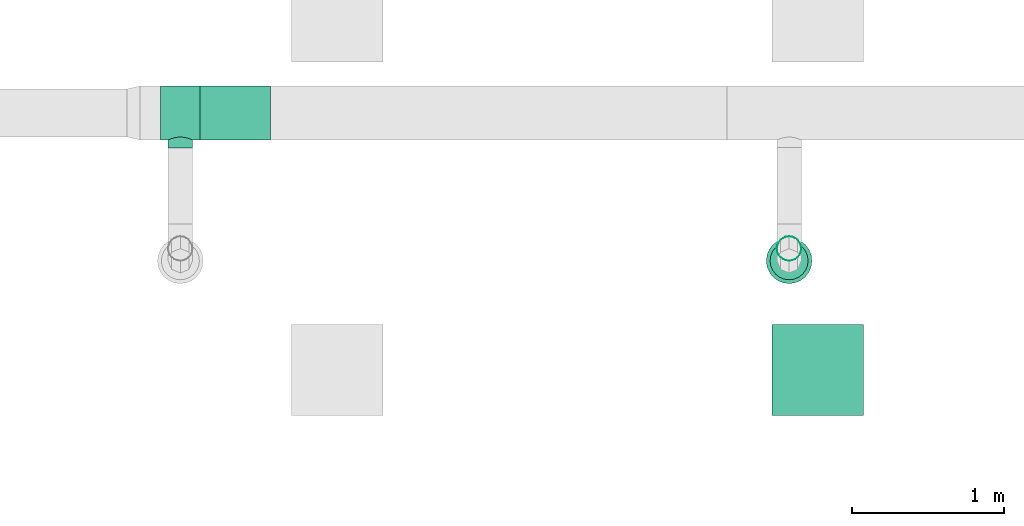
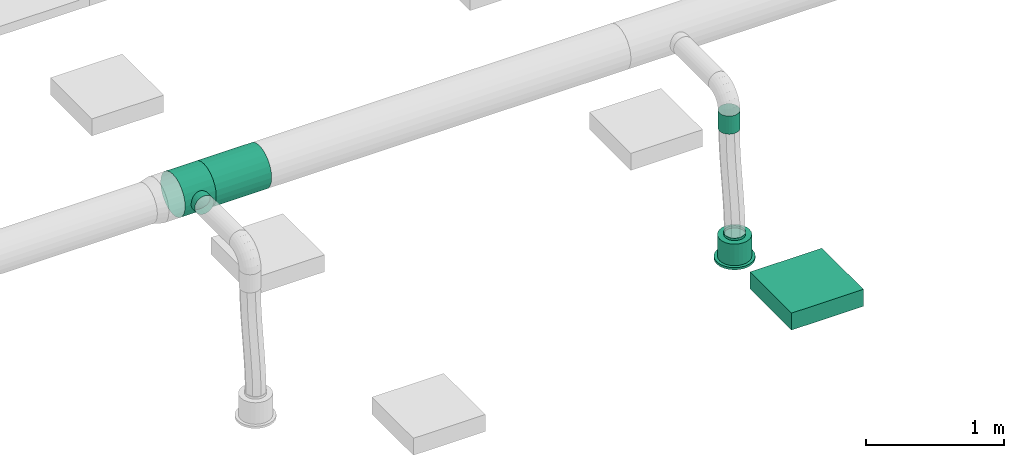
# One storey, part 26 of 374: 2 flow segments, 1 distribution element, 1 flow fitting, 1 flow terminal.
"""IFC2X3 building model written with IfcOpenShell, lengths in metres."""

from ifc_helpers import new_model, si_unit, direction, frame, frame_2d, origin, place, context, subcontext, project, spatial, rectangle, extrude, open_shell, surface_model, source, transform, mapped, element, save


model = new_model("IFC2X3")

# Units and contexts
model_context = context("Model", 3, precision=1e-05, world=origin(), true_north=direction((-0.4480736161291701, 0.8939966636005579)))
body_context = subcontext(model_context, "Body", "Model", "MODEL_VIEW")
ifc_project = project(units=[si_unit("LENGTHUNIT", "METRE"), si_unit("AREAUNIT", "SQUARE_METRE"), si_unit("VOLUMEUNIT", "CUBIC_METRE"), si_unit("PLANEANGLEUNIT", "RADIAN"), si_unit("THERMODYNAMICTEMPERATUREUNIT", "KELVIN"), si_unit("MASSUNIT", "GRAM", prefix="KILO"), si_unit("TIMEUNIT", "SECOND")], contexts=[model_context])

# Site, building, storey
site_placement = place(None, origin())
site = spatial("IfcSite", under=ifc_project, at=site_placement, Name="Site 1", CompositionType="ELEMENT")
building_placement = place(site_placement, origin())
building = spatial("IfcBuilding", under=site, at=building_placement, Name="Undefined", CompositionType="ELEMENT")
storey_placement = place(building_placement, origin())
storey = spatial("IfcBuildingStorey", under=building, at=storey_placement, Name="Rez de chauss\x8ee", CompositionType="ELEMENT", Elevation=0.0)

# Flow terminal
shared_shape_1 = source(origin(), body_context, "Body", "SurfaceModel", [
    surface_model("IfcFaceBasedSurfaceModel", [(0.0, 0.0, 0.0), (0.03915785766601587, 0.0, 0.0), (0.03915785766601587, 0.020000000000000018, 0.0), (3.552713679e-15, 0.020000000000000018, 0.0), (0.07698144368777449, 0.0, -0.010134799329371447), (0.07698144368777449, 0.020000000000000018, -0.010134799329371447), (0.11089314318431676, 0.0, -0.02971372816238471), (0.11089314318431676, 0.020000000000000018, -0.02971372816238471), (0.13858192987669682, 0.0, -0.05740251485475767), (0.13858192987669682, 0.020000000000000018, -0.05740251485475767), (0.15816085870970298, 0.0, -0.09131421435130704), (0.15816085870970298, 0.020000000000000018, -0.09131421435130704), (0.16829565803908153, 0.0, -0.12913780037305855), (0.16829565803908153, 0.020000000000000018, -0.12913780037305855), (0.16829565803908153, 0.0, -0.16829565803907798), (0.16829565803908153, 0.020000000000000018, -0.16829565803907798), (0.15816085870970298, 0.0, -0.20611924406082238), (0.15816085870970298, 0.020000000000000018, -0.20611924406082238), (0.13858192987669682, 0.0, -0.24003094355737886), (0.13858192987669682, 0.020000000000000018, -0.24003094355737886), (0.11089314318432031, 0.0, -0.2677197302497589), (0.11089314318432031, 0.020000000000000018, -0.2677197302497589), (0.07698144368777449, 0.0, -0.2872986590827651), (0.07698144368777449, 0.020000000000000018, -0.2872986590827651), (0.039157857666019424, 0.0, -0.29743345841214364), (0.039157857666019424, 0.020000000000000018, -0.29743345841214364), (3.552713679e-15, 0.0, -0.29743345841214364), (3.552713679e-15, 0.020000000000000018, -0.29743345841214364), (-0.03782358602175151, 0.0, -0.2872986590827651), (-0.03782358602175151, 0.020000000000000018, -0.2872986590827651), (-0.07173528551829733, 0.0, -0.2677197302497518), (-0.07173528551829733, 0.020000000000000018, -0.2677197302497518), (-0.0994240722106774, 0.0, -0.24003094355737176), (-0.0994240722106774, 0.020000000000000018, -0.24003094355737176), (-0.11900300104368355, 0.0, -0.2061192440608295), (-0.11900300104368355, 0.020000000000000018, -0.2061192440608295), (-0.1291378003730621, 0.0, -0.16829565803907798), (-0.1291378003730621, 0.020000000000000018, -0.16829565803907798), (-0.1291378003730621, 0.0, -0.12913780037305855), (-0.1291378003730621, 0.020000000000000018, -0.12913780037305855), (-0.11900300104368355, 0.0, -0.09131421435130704), (-0.11900300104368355, 0.020000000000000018, -0.09131421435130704), (-0.0994240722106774, 0.0, -0.05740251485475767), (-0.0994240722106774, 0.020000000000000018, -0.05740251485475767), (-0.07173528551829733, 0.0, -0.029713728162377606), (-0.07173528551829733, 0.020000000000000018, -0.029713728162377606), (-0.03782358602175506, 0.0, -0.010134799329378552), (-0.03782358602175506, 0.020000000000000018, -0.010134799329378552), (0.019578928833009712, 0.0, -0.14871672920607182), (0.019578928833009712, 0.020000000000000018, -0.14871672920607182), (0.003263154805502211, 0.020000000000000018, -0.02478612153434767), (0.035894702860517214, 0.020000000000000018, -0.02478612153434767), (0.035894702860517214, 0.20999999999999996, -0.02478612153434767), (0.003263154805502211, 0.20999999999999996, -0.02478612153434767), (0.06741435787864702, 0.020000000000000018, -0.033231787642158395), (0.06741435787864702, 0.20999999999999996, -0.033231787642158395), (0.0956741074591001, 0.020000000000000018, -0.04954756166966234), (0.0956741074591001, 0.20999999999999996, -0.04954756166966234), (0.11874809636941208, 0.020000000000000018, -0.07262155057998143), (0.11874809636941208, 0.20999999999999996, -0.07262155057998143), (0.13506387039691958, 0.020000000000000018, -0.10088130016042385), (0.13506387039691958, 0.20999999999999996, -0.10088130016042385), (0.1435095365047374, 0.020000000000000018, -0.13240095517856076), (0.1435095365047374, 0.20999999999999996, -0.13240095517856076), (0.1435095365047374, 0.020000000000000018, -0.16503250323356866), (0.1435095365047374, 0.20999999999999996, -0.16503250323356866), (0.13506387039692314, 0.020000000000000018, -0.19655215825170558), (0.13506387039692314, 0.20999999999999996, -0.19655215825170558), (0.11874809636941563, 0.020000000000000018, -0.2248119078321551), (0.11874809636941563, 0.20999999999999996, -0.2248119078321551), (0.09567410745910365, 0.020000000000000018, -0.24788589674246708), (0.09567410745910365, 0.20999999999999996, -0.24788589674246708), (0.06741435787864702, 0.020000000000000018, -0.26420167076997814), (0.06741435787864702, 0.20999999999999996, -0.26420167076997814), (0.035894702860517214, 0.020000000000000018, -0.27264733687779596), (0.035894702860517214, 0.20999999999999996, -0.27264733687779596), (0.0032631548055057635, 0.020000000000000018, -0.27264733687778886), (0.0032631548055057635, 0.20999999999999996, -0.27264733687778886), (-0.028256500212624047, 0.020000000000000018, -0.26420167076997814), (-0.028256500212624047, 0.20999999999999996, -0.26420167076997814), (-0.05651624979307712, 0.020000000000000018, -0.2478858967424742), (-0.05651624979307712, 0.20999999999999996, -0.2478858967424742), (-0.07959023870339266, 0.020000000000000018, -0.2248119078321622), (-0.07959023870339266, 0.20999999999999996, -0.2248119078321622), (-0.09590601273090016, 0.020000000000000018, -0.19655215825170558), (-0.09590601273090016, 0.20999999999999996, -0.19655215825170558), (-0.10435167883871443, 0.020000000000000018, -0.16503250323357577), (-0.10435167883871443, 0.20999999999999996, -0.16503250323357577), (-0.10435167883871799, 0.020000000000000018, -0.13240095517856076), (-0.10435167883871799, 0.20999999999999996, -0.13240095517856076), (-0.09590601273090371, 0.020000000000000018, -0.10088130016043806), (-0.09590601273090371, 0.20999999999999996, -0.10088130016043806), (-0.07959023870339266, 0.020000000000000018, -0.07262155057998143), (-0.07959023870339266, 0.20999999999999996, -0.07262155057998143), (-0.056516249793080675, 0.020000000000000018, -0.04954756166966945), (-0.056516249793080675, 0.20999999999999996, -0.04954756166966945), (-0.028256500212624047, 0.020000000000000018, -0.033231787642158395), (-0.028256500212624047, 0.20999999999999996, -0.033231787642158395), (0.019578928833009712, 0.20999999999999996, -0.14871672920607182), (0.009136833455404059, 0.20999999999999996, -0.06940114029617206), (0.030021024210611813, 0.20999999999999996, -0.06940114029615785), (0.030021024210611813, 0.22999999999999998, -0.06940114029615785), (0.009136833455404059, 0.22999999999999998, -0.06940114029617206), (0.05019360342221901, 0.20999999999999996, -0.07480636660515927), (0.05019360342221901, 0.22999999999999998, -0.07480636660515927), (0.06827984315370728, 0.20999999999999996, -0.08524846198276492), (0.06827984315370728, 0.22999999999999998, -0.08524846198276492), (0.0830471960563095, 0.20999999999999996, -0.10001581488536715), (0.0830471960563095, 0.22999999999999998, -0.10001581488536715), (0.0934892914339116, 0.20999999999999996, -0.11810205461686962), (0.0934892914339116, 0.22999999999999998, -0.11810205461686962), (0.09889451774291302, 0.20999999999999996, -0.13827463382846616), (0.09889451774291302, 0.22999999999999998, -0.13827463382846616), (0.09889451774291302, 0.20999999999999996, -0.15915882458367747), (0.09889451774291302, 0.22999999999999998, -0.15915882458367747), (0.09348929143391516, 0.20999999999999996, -0.179331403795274), (0.09348929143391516, 0.22999999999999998, -0.179331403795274), (0.0830471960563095, 0.20999999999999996, -0.19741764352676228), (0.0830471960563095, 0.22999999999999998, -0.19741764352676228), (0.06827984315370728, 0.20999999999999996, -0.2121849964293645), (0.06827984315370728, 0.22999999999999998, -0.2121849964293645), (0.05019360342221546, 0.20999999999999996, -0.22262709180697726), (0.05019360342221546, 0.22999999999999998, -0.22262709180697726), (0.030021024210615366, 0.20999999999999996, -0.22803231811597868), (0.030021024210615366, 0.22999999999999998, -0.22803231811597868), (0.009136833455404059, 0.20999999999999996, -0.22803231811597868), (0.009136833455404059, 0.22999999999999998, -0.22803231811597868), (-0.011035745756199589, 0.20999999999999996, -0.22262709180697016), (-0.011035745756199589, 0.22999999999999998, -0.22262709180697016), (-0.0291219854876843, 0.20999999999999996, -0.2121849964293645), (-0.0291219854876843, 0.22999999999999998, -0.2121849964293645), (-0.043889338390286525, 0.20999999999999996, -0.19741764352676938), (-0.043889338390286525, 0.22999999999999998, -0.19741764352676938), (-0.05433143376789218, 0.20999999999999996, -0.17933140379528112), (-0.05433143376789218, 0.22999999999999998, -0.17933140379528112), (-0.05973666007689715, 0.20999999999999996, -0.15915882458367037), (-0.05973666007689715, 0.22999999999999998, -0.15915882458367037), (-0.0597366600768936, 0.20999999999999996, -0.13827463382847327), (-0.0597366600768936, 0.22999999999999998, -0.13827463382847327), (-0.05433143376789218, 0.20999999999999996, -0.11810205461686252), (-0.05433143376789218, 0.22999999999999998, -0.11810205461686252), (-0.043889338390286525, 0.20999999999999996, -0.10001581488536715), (-0.043889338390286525, 0.22999999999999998, -0.10001581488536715), (-0.02912198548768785, 0.20999999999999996, -0.08524846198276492), (-0.02912198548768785, 0.22999999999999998, -0.08524846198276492), (-0.011035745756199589, 0.20999999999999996, -0.07480636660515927), (-0.011035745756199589, 0.22999999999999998, -0.07480636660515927)], [open_shell([[[0, 1, 2, 3]], [[1, 4, 5, 2]], [[4, 6, 7, 5]], [[6, 8, 9, 7]], [[8, 10, 11, 9]], [[10, 12, 13, 11]], [[12, 14, 15, 13]], [[14, 16, 17, 15]], [[16, 18, 19, 17]], [[18, 20, 21, 19]], [[20, 22, 23, 21]], [[22, 24, 25, 23]], [[24, 26, 27, 25]], [[26, 28, 29, 27]], [[28, 30, 31, 29]], [[30, 32, 33, 31]], [[32, 34, 35, 33]], [[34, 36, 37, 35]], [[36, 38, 39, 37]], [[38, 40, 41, 39]], [[40, 42, 43, 41]], [[42, 44, 45, 43]], [[44, 46, 47, 45]], [[46, 0, 3, 47]], [[48, 1, 0]], [[48, 4, 1]], [[48, 6, 4]], [[48, 8, 6]], [[48, 10, 8]], [[48, 12, 10]], [[48, 14, 12]], [[48, 16, 14]], [[48, 18, 16]], [[48, 20, 18]], [[48, 22, 20]], [[48, 24, 22]], [[48, 26, 24]], [[48, 28, 26]], [[48, 30, 28]], [[48, 32, 30]], [[48, 34, 32]], [[48, 36, 34]], [[48, 38, 36]], [[48, 40, 38]], [[48, 42, 40]], [[48, 44, 42]], [[48, 46, 44]], [[48, 0, 46]], [[49, 47, 3]], [[49, 45, 47]], [[49, 43, 45]], [[49, 41, 43]], [[49, 39, 41]], [[49, 37, 39]], [[49, 35, 37]], [[49, 33, 35]], [[49, 31, 33]], [[49, 29, 31]], [[49, 27, 29]], [[49, 25, 27]], [[49, 23, 25]], [[49, 21, 23]], [[49, 19, 21]], [[49, 17, 19]], [[49, 15, 17]], [[49, 13, 15]], [[49, 11, 13]], [[49, 9, 11]], [[49, 7, 9]], [[49, 5, 7]], [[49, 2, 5]], [[49, 3, 2]], [[50, 51, 52, 53]], [[51, 54, 55, 52]], [[54, 56, 57, 55]], [[56, 58, 59, 57]], [[58, 60, 61, 59]], [[60, 62, 63, 61]], [[62, 64, 65, 63]], [[64, 66, 67, 65]], [[66, 68, 69, 67]], [[68, 70, 71, 69]], [[70, 72, 73, 71]], [[72, 74, 75, 73]], [[74, 76, 77, 75]], [[76, 78, 79, 77]], [[78, 80, 81, 79]], [[80, 82, 83, 81]], [[82, 84, 85, 83]], [[84, 86, 87, 85]], [[86, 88, 89, 87]], [[88, 90, 91, 89]], [[90, 92, 93, 91]], [[92, 94, 95, 93]], [[94, 96, 97, 95]], [[96, 50, 53, 97]], [[49, 51, 50]], [[49, 54, 51]], [[49, 56, 54]], [[49, 58, 56]], [[49, 60, 58]], [[49, 62, 60]], [[49, 64, 62]], [[49, 66, 64]], [[49, 68, 66]], [[49, 70, 68]], [[49, 72, 70]], [[49, 74, 72]], [[49, 76, 74]], [[49, 78, 76]], [[49, 80, 78]], [[49, 82, 80]], [[49, 84, 82]], [[49, 86, 84]], [[49, 88, 86]], [[49, 90, 88]], [[49, 92, 90]], [[49, 94, 92]], [[49, 96, 94]], [[49, 50, 96]], [[98, 97, 53]], [[98, 95, 97]], [[98, 93, 95]], [[98, 91, 93]], [[98, 89, 91]], [[98, 87, 89]], [[98, 85, 87]], [[98, 83, 85]], [[98, 81, 83]], [[98, 79, 81]], [[98, 77, 79]], [[98, 75, 77]], [[98, 73, 75]], [[98, 71, 73]], [[98, 69, 71]], [[98, 67, 69]], [[98, 65, 67]], [[98, 63, 65]], [[98, 61, 63]], [[98, 59, 61]], [[98, 57, 59]], [[98, 55, 57]], [[98, 52, 55]], [[98, 53, 52]], [[99, 100, 101, 102]], [[100, 103, 104, 101]], [[103, 105, 106, 104]], [[105, 107, 108, 106]], [[107, 109, 110, 108]], [[109, 111, 112, 110]], [[111, 113, 114, 112]], [[113, 115, 116, 114]], [[115, 117, 118, 116]], [[117, 119, 120, 118]], [[119, 121, 122, 120]], [[121, 123, 124, 122]], [[123, 125, 126, 124]], [[125, 127, 128, 126]], [[127, 129, 130, 128]], [[129, 131, 132, 130]], [[131, 133, 134, 132]], [[133, 135, 136, 134]], [[135, 137, 138, 136]], [[137, 139, 140, 138]], [[139, 141, 142, 140]], [[141, 143, 144, 142]], [[143, 145, 146, 144]], [[145, 99, 102, 146]]])]),
])
flow_terminal_placement = place(storey_placement, origin())
element("IfcFlowTerminal", 1, at=flow_terminal_placement, inside=storey, Name="Air diffuseur - bouche", ObjectType="Air diffuseur - bouche", context=body_context, shape_type="MappedRepresentation", body=[
    mapped(shared_shape_1, transform((26.290000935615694, 2.0299997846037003, 2.38), x_axis=(-0.9914448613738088, -0.13052619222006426, 0.0), y_axis=(0.0, 0.0, 1.0), z_axis=(-0.13052619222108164, 0.9914448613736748, 0.0))),
])

# Flow segment
shared_shape_2 = source(origin(), body_context, "Body", "SurfaceModel", [
    surface_model("IfcFaceBasedSurfaceModel", [(0.0, 0.046336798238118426, 0.0), (0.0, 0.0, 0.0), (0.46300008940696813, 4.4408921e-16, -4.4408921e-16), (0.46300008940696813, 0.04633679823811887, 0.0), (0.0, -0.044757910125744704, -0.0119928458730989), (0.46300008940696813, -0.04475791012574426, -0.0119928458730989), (0.0, -0.08488675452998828, -0.035161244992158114), (0.46300008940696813, -0.08488675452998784, -0.03516124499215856), (0.0, -0.11765181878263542, -0.06792630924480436), (0.46300008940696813, -0.11765181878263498, -0.06792630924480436), (0.0, -0.1408202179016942, -0.10805515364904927), (0.46300008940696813, -0.14082021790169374, -0.10805515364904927), (0.0, -0.15281306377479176, -0.15281306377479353), (0.46300008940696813, -0.1528130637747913, -0.15281306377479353), (0.0, -0.1528130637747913, -0.19914986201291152), (0.46300008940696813, -0.15281306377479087, -0.19914986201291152), (0.0, -0.14082021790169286, -0.24390777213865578), (0.46300008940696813, -0.14082021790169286, -0.24390777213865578), (0.0, -0.11765181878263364, -0.2840366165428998), (0.46300008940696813, -0.1176518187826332, -0.28403661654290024), (0.0, -0.0848867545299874, -0.31680168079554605), (0.46300008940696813, -0.08488675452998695, -0.31680168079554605), (0.0, -0.044757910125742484, -0.3399700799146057), (0.46300008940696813, -0.04475791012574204, -0.3399700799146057), (0.0, 1.776356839e-15, -0.35196292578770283), (0.46300008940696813, 2.220446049e-15, -0.35196292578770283), (0.0, 0.0463367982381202, -0.3519629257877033), (0.46300008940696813, 0.04633679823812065, -0.3519629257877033), (0.0, 0.09109470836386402, -0.3399700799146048), (0.46300008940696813, 0.09109470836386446, -0.3399700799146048), (0.0, 0.13122355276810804, -0.31680168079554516), (0.46300008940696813, 0.1312235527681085, -0.31680168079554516), (0.0, 0.16398861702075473, -0.2840366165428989), (0.46300008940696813, 0.16398861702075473, -0.2840366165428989), (0.0, 0.18715701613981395, -0.243907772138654), (0.46300008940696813, 0.18715701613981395, -0.243907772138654), (0.0, 0.19914986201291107, -0.19914986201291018), (0.46300008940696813, 0.19914986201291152, -0.19914986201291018), (0.0, 0.19914986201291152, -0.15281306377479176), (0.46300008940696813, 0.19914986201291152, -0.1528130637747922), (0.0, 0.18715701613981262, -0.1080551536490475), (0.46300008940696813, 0.18715701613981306, -0.1080551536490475), (0.0, 0.1639886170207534, -0.06792630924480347), (0.46300008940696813, 0.16398861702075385, -0.06792630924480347), (0.0, 0.1312235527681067, -0.03516124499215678), (0.46300008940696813, 0.13122355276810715, -0.03516124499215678), (0.0, 0.09109470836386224, -0.011992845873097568), (0.46300008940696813, 0.09109470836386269, -0.011992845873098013)], [open_shell([[[0, 1, 2, 3]], [[1, 4, 5, 2]], [[4, 6, 7, 5]], [[6, 8, 9, 7]], [[8, 10, 11, 9]], [[10, 12, 13, 11]], [[12, 14, 15, 13]], [[14, 16, 17, 15]], [[16, 18, 19, 17]], [[18, 20, 21, 19]], [[20, 22, 23, 21]], [[22, 24, 25, 23]], [[24, 26, 27, 25]], [[26, 28, 29, 27]], [[28, 30, 31, 29]], [[30, 32, 33, 31]], [[32, 34, 35, 33]], [[34, 36, 37, 35]], [[36, 38, 39, 37]], [[38, 40, 41, 39]], [[40, 42, 43, 41]], [[42, 44, 45, 43]], [[44, 46, 47, 45]], [[46, 0, 3, 47]]])]),
])
flow_segment_1_placement = place(storey_placement, origin())
element("IfcFlowSegment", 2, at=flow_segment_1_placement, inside=storey, Name="Tube", ObjectType="Tube", context=body_context, shape_type="MappedRepresentation", body=[
    mapped(shared_shape_2, transform((22.88300102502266, 2.897238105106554, 3.9714518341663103), x_axis=(-1.0, 0.0, 0.0), y_axis=(7.266545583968e-12, -0.9914448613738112, 0.13052619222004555), z_axis=(0.0, 0.13052619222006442, 0.9914448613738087))),
])

# Flow fitting
shared_shape_3 = source(origin(), body_context, "Body", "SurfaceModel", [
    surface_model("IfcFaceBasedSurfaceModel", [(0.0, 0.046336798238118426, 0.0), (0.0, 0.0, 0.0), (0.2599999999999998, -7.105427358e-15, 0.0), (0.259999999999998, 0.04633679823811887, 0.0), (0.0, -0.044757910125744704, -0.0119928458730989), (0.259999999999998, -0.04475791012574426, -0.0119928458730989), (0.0, -0.08488675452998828, -0.035161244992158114), (0.259999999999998, -0.08488675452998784, -0.03516124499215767), (0.0, -0.11765181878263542, -0.06792630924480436), (0.259999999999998, -0.11765181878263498, -0.06792630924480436), (0.0, -0.1408202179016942, -0.10805515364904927), (0.259999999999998, -0.14082021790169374, -0.10805515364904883), (0.0, -0.15281306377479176, -0.15281306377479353), (0.259999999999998, -0.1528130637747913, -0.15281306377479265), (0.0, -0.1528130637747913, -0.19914986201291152), (0.259999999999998, -0.15281306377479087, -0.19914986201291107), (0.0, -0.14082021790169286, -0.24390777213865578), (0.259999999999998, -0.14082021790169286, -0.24390777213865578), (0.0, -0.11765181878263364, -0.2840366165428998), (0.259999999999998, -0.1176518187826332, -0.28403661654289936), (0.0, -0.0848867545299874, -0.31680168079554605), (0.259999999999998, -0.08488675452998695, -0.31680168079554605), (0.0, -0.044757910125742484, -0.3399700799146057), (0.259999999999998, -0.04475791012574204, -0.33997007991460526), (0.0, 1.776356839e-15, -0.35196292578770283), (0.259999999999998, 2.220446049e-15, -0.35196292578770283), (0.0, 0.0463367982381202, -0.3519629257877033), (0.259999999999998, 0.04633679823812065, -0.35196292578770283), (0.0, 0.09109470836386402, -0.3399700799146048), (0.259999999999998, 0.09109470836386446, -0.3399700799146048), (0.0, 0.13122355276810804, -0.31680168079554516), (0.259999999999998, 0.1312235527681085, -0.3168016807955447), (0.0, 0.16398861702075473, -0.2840366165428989), (0.259999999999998, 0.16398861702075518, -0.2840366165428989), (0.0, 0.18715701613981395, -0.243907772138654), (0.259999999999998, 0.18715701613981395, -0.24390777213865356), (0.0, 0.19914986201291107, -0.19914986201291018), (0.259999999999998, 0.19914986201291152, -0.1991498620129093), (0.0, 0.19914986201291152, -0.15281306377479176), (0.259999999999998, 0.19914986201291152, -0.1528130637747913), (0.0, 0.18715701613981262, -0.1080551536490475), (0.259999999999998, 0.18715701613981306, -0.1080551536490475), (0.0, 0.1639886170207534, -0.06792630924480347), (0.259999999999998, 0.16398861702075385, -0.06792630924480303), (0.0, 0.1312235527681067, -0.03516124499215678), (0.259999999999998, 0.13122355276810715, -0.03516124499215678), (0.0, 0.09109470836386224, -0.011992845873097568), (0.259999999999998, 0.09109470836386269, -0.011992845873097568), (0.21000000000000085, 0.19914986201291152, -0.1991498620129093), (0.2072740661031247, 0.1952458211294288, -0.2195200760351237), (0.2072740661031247, 0.2484981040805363, -0.2265308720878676), (0.21000000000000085, 0.251200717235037, -0.2060024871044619), (0.19928203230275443, 0.18940211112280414, -0.23821170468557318), (0.19928203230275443, 0.24597966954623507, -0.24566028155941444), (0.18656854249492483, 0.18258998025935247, -0.25402638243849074), (0.18656854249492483, 0.24381704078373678, -0.2620870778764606), (0.1699999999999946, 0.17614766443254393, -0.2660014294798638), (0.1699999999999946, 0.242157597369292, -0.27469180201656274), (0.15070552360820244, 0.17151167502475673, -0.2734520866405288), (0.15070552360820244, 0.24111442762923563, -0.28261546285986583), (0.12999999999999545, 0.16982026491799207, -0.27597886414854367), (0.12999999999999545, 0.24075862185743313, -0.285318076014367), (0.10929447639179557, 0.17151167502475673, -0.2734520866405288), (0.10929447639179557, 0.24111442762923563, -0.28261546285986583), (0.0899999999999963, 0.17614766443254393, -0.2660014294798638), (0.0899999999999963, 0.242157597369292, -0.27469180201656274), (0.07343145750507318, 0.18258998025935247, -0.25402638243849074), (0.07343145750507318, 0.24381704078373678, -0.2620870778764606), (0.06071796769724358, 0.18940211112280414, -0.23821170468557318), (0.06071796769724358, 0.24597966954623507, -0.24566028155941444), (0.0527259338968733, 0.1952458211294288, -0.2195200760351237), (0.0527259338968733, 0.2484981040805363, -0.2265308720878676), (0.04999999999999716, 0.19914986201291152, -0.1991498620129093), (0.04999999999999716, 0.251200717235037, -0.2060024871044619), (0.0527259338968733, 0.2006510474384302, -0.1784633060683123), (0.0527259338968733, 0.2539033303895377, -0.1854741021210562), (0.06071796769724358, 0.19984420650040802, -0.15889611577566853), (0.06071796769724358, 0.25642176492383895, -0.1663446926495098), (0.07343145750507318, 0.19735733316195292, -0.14185720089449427), (0.07343145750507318, 0.25858439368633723, -0.1499178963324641), (0.0899999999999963, 0.19423390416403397, -0.12862279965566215), (0.0899999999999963, 0.260243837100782, -0.13731317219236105), (0.10929447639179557, 0.1916842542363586, -0.12022613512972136), (0.10929447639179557, 0.2612870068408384, -0.1293895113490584), (0.12999999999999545, 0.19070445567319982, -0.11734768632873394), (0.12999999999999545, 0.2616428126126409, -0.12668689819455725), (0.15070552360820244, 0.1916842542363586, -0.12022613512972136), (0.15070552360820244, 0.2612870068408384, -0.1293895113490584), (0.1699999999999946, 0.19423390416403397, -0.12862279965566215), (0.1699999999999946, 0.260243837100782, -0.13731317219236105), (0.18656854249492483, 0.19735733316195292, -0.14185720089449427), (0.18656854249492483, 0.25858439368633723, -0.1499178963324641), (0.19928203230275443, 0.19984420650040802, -0.15889611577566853), (0.19928203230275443, 0.25642176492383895, -0.1663446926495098), (0.2072740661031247, 0.2006510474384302, -0.1784633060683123), (0.2072740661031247, 0.2539033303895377, -0.1854741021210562)], [open_shell([[[0, 1, 2, 3]], [[1, 4, 5, 2]], [[4, 6, 7, 5]], [[6, 8, 9, 7]], [[8, 10, 11, 9]], [[10, 12, 13, 11]], [[12, 14, 15, 13]], [[14, 16, 17, 15]], [[16, 18, 19, 17]], [[18, 20, 21, 19]], [[20, 22, 23, 21]], [[22, 24, 25, 23]], [[24, 26, 27, 25]], [[26, 28, 29, 27]], [[28, 30, 31, 29]], [[30, 32, 33, 31]], [[32, 34, 35, 33]], [[34, 36, 37, 35]], [[36, 38, 39, 37]], [[38, 40, 41, 39]], [[40, 42, 43, 41]], [[42, 44, 45, 43]], [[44, 46, 47, 45]], [[46, 0, 3, 47]], [[48, 49, 50, 51]], [[49, 52, 53, 50]], [[52, 54, 55, 53]], [[54, 56, 57, 55]], [[56, 58, 59, 57]], [[58, 60, 61, 59]], [[60, 62, 63, 61]], [[62, 64, 65, 63]], [[64, 66, 67, 65]], [[66, 68, 69, 67]], [[68, 70, 71, 69]], [[70, 72, 73, 71]], [[72, 74, 75, 73]], [[74, 76, 77, 75]], [[76, 78, 79, 77]], [[78, 80, 81, 79]], [[80, 82, 83, 81]], [[82, 84, 85, 83]], [[84, 86, 87, 85]], [[86, 88, 89, 87]], [[88, 90, 91, 89]], [[90, 92, 93, 91]], [[92, 94, 95, 93]], [[94, 48, 51, 95]]])]),
])
flow_fitting_placement = place(storey_placement, origin())
element("IfcFlowFitting", 3, at=flow_fitting_placement, inside=storey, Name="Pièce en té 90°", ObjectType="Pièce en té 90°", context=body_context, shape_type="MappedRepresentation", body=[
    mapped(shared_shape_3, transform((22.160000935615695, 2.897238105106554, 3.6285481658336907), x_axis=(1.0, 0.0, 0.0), y_axis=(0.0, -0.9914448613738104, -0.13052619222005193), z_axis=(0.0, 0.13052619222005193, -0.9914448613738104))),
])

# Flow segment
shared_shape_4 = source(origin(), body_context, "Body", "SurfaceModel", [
    surface_model("IfcFaceBasedSurfaceModel", [(0.0, 0.020884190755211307, 0.0), (0.0, 0.0, 0.0), (0.16000000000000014, 0.0, -4.4408921e-16), (0.16000000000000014, 0.0208841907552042, -4.4408921e-16), (0.0, -0.020172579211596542, -0.005405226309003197), (0.16000000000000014, -0.020172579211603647, -0.005405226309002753), (0.0, -0.03825881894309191, -0.015847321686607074), (0.16000000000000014, -0.03825881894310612, -0.015847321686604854), (0.0, -0.05302617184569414, -0.0306146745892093), (0.16000000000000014, -0.05302617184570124, -0.03061467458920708), (0.0, -0.06346826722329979, -0.04870091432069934), (0.16000000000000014, -0.0634682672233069, -0.04870091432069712), (0.0, -0.06887349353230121, -0.06887349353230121), (0.16000000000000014, -0.06887349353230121, -0.06887349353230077), (0.0, -0.06887349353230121, -0.08975768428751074), (0.16000000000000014, -0.06887349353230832, -0.08975768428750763), (0.0, -0.06346826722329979, -0.10993026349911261), (0.16000000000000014, -0.0634682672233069, -0.10993026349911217), (0.0, -0.05302617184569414, -0.12801650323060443), (0.16000000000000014, -0.05302617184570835, -0.1280165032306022), (0.0, -0.038258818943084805, -0.14278385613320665), (0.16000000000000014, -0.03825881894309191, -0.14278385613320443), (0.0, -0.020172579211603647, -0.15322595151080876), (0.16000000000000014, -0.020172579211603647, -0.1532259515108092), (0.0, 7.105427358e-15, -0.15863117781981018), (0.16000000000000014, -7.105427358e-15, -0.15863117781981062), (0.0, 0.020884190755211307, -0.15863117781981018), (0.16000000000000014, 0.0208841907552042, -0.15863117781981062), (0.0, 0.04105676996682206, -0.15322595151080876), (0.16000000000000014, 0.04105676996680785, -0.1532259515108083), (0.0, 0.05914300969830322, -0.1427838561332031), (0.16000000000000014, 0.05914300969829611, -0.14278385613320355), (0.0, 0.07391036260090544, -0.12801650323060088), (0.16000000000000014, 0.07391036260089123, -0.1280165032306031), (0.0, 0.0843524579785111, -0.10993026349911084), (0.16000000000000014, 0.08435245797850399, -0.10993026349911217), (0.0, 0.08975768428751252, -0.08975768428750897), (0.16000000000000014, 0.08975768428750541, -0.08975768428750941), (0.0, 0.08975768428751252, -0.06887349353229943), (0.16000000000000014, 0.08975768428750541, -0.06887349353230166), (0.0, 0.0843524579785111, -0.048700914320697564), (0.16000000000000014, 0.08435245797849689, -0.04870091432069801), (0.0, 0.07391036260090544, -0.030614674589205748), (0.16000000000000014, 0.07391036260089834, -0.03061467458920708), (0.0, 0.05914300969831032, -0.015847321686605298), (0.16000000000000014, 0.05914300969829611, -0.01584732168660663), (0.0, 0.04105676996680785, -0.005405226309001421), (0.16000000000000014, 0.04105676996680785, -0.005405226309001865)], [open_shell([[[0, 1, 2, 3]], [[1, 4, 5, 2]], [[4, 6, 7, 5]], [[6, 8, 9, 7]], [[8, 10, 11, 9]], [[10, 12, 13, 11]], [[12, 14, 15, 13]], [[14, 16, 17, 15]], [[16, 18, 19, 17]], [[18, 20, 21, 19]], [[20, 22, 23, 21]], [[22, 24, 25, 23]], [[24, 26, 27, 25]], [[26, 28, 29, 27]], [[28, 30, 31, 29]], [[30, 32, 33, 31]], [[32, 34, 35, 33]], [[34, 36, 37, 35]], [[36, 38, 39, 37]], [[38, 40, 41, 39]], [[40, 42, 43, 41]], [[42, 44, 45, 43]], [[44, 46, 47, 45]], [[46, 0, 3, 47]]])]),
])
flow_segment_2_placement = place(storey_placement, origin())
element("IfcFlowSegment", 4, at=flow_segment_2_placement, inside=storey, Name="Tube", ObjectType="Tube", context=body_context, shape_type="MappedRepresentation", body=[
    mapped(shared_shape_4, transform((26.269295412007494, 2.0372738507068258, 3.4800000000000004), x_axis=(0.0, 0.0, 1.0), y_axis=(0.9914448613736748, 0.13052619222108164, 0.0), z_axis=(-0.13052619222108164, 0.9914448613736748, 0.0))),
])

# Distribution element
distribution_element_placement = place(storey_placement, origin())
element("IfcDistributionElement", 5, at=distribution_element_placement, inside=storey, Name="Decken-Rechteckleuchte mit Rahmen AP", ObjectType="Decken-Rechteckleuchte mit Rahmen AP", context=body_context, shape_type="SweptSolid", body=[
    extrude(rectangle(XDim=0.6000000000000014, YDim=0.6000000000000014, at=frame_2d((3.552713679e-15, 0.0), x_axis=(0.0, 1.0))), frame((26.478283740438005, 1.1625, 2.5500000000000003), z_axis=(0.0, 0.0, -1.0), x_axis=(1.0, 0.0, 0.0)), (0.0, 0.0, 1.0), 0.15),
])

save(model, "model.ifc")
